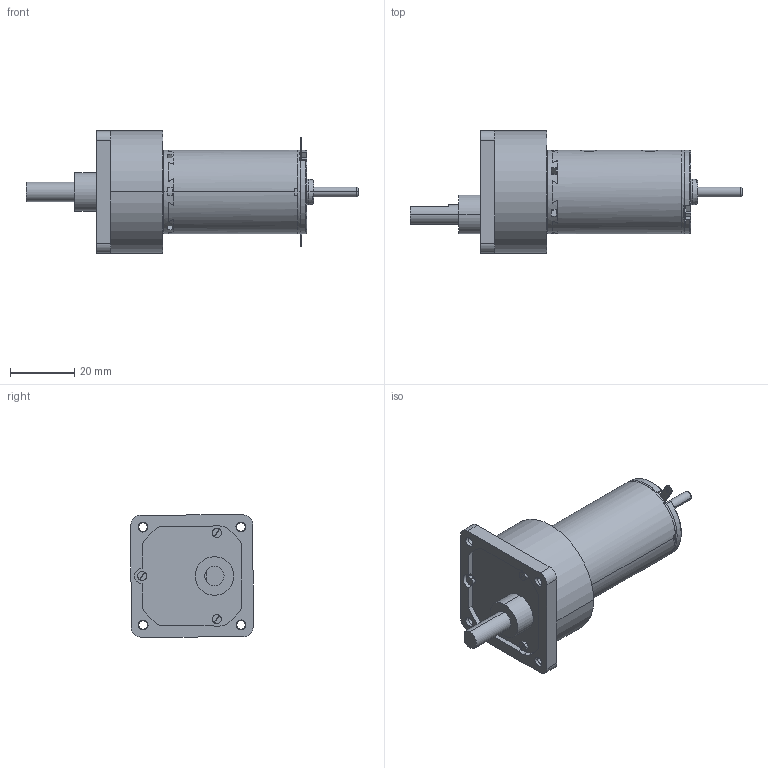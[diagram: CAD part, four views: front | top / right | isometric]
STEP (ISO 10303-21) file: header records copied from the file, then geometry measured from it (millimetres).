
FILE_DESCRIPTION (( 'STEP AP214' ), '1' );
FILE_NAME ('AMAX26CLLHP+GS38A 2étages.STEP', '2015-02-16T09:33:42', ( '' ), ( '' ), 'SwSTEP 2.0', 'SolidWorks 2014', '' );
FILE_SCHEMA (( 'AUTOMOTIVE_DESIGN' ));
Length unit declared in the file: millimetre
Products named in the file (4): Plaque d''appui GS38A; GS38A_GS38A 10:1 2 ‚tages; AMAX-26CLL; AMAX26CLLHP+GS38A 2étages
Assembly tree (3 placements, depth 2):
  AMAX26CLLHP+GS38A 2étages
    AMAX-26CLL
    GS38A_GS38A 10:1 2 ‚tages
    Plaque d''appui GS38A
Bounding box: 103.4 x 38.03 x 38.03 mm (x, y, z)
Volume: 46878.1 mm3; surface area: 14386.1 mm2
Topology: 4 solids, 4 shells, 559 faces, 1506 edges, 985 vertices
Faces by surface type: plane 294, cylinder 196, cone 62, torus 7
Entity records: 19456 total; most frequent: CARTESIAN_POINT 4252, ORIENTED_EDGE 3012, DIRECTION 2909, EDGE_CURVE 1506, AXIS2_PLACEMENT_3D 1060, VERTEX_POINT 985, VECTOR 789, LINE 789
